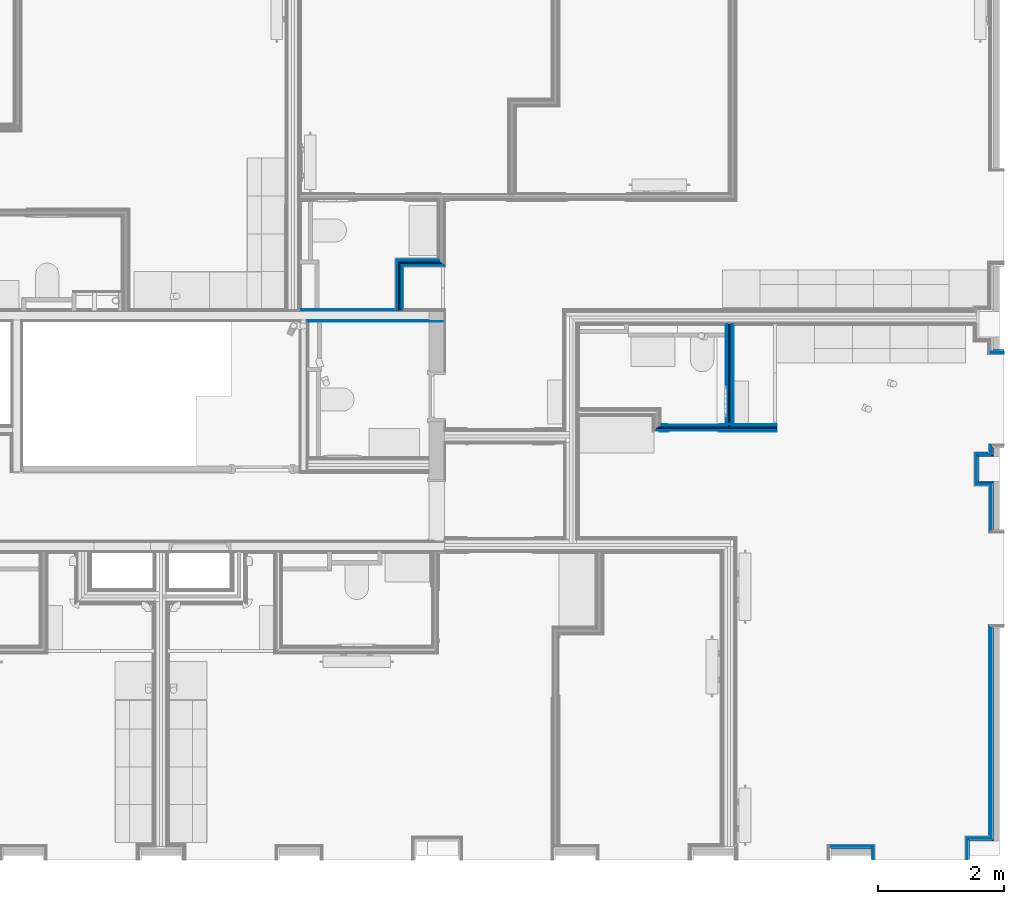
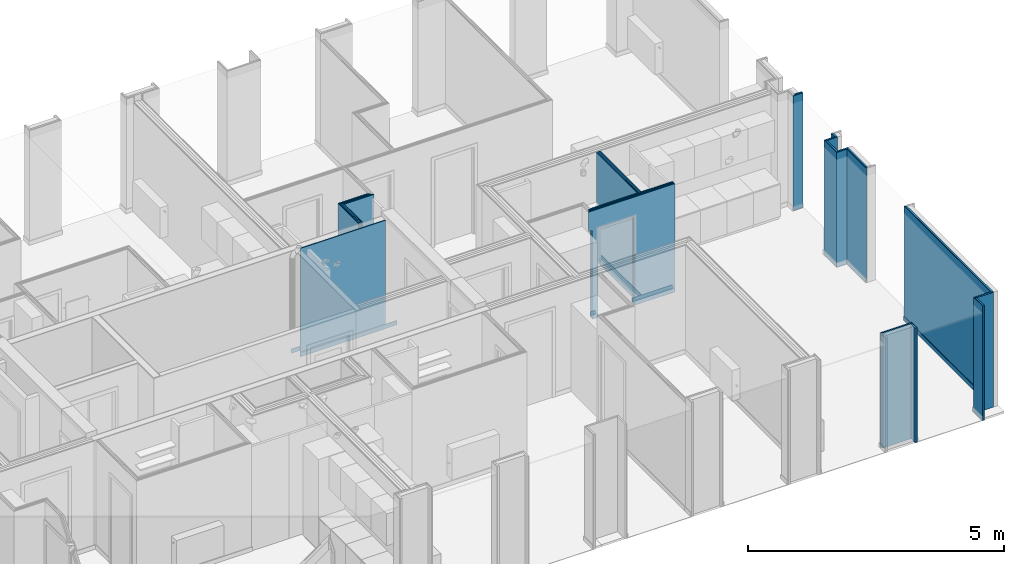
# One storey, part 22 of 82: 53 building element parts, 2 openings, 16 elements without a shape of their own.
"""IFC2X3 building model written with IfcOpenShell, lengths in metres."""

from ifc_helpers import new_model, entity, si_unit, converted_unit, derived_unit, money_unit, direction, frame, frame_2d, origin_with_axes, place, context, subcontext, project, spatial, polyline, rectangle, outline, extrude, material, type_object, element, aggregate, save


model = new_model("IFC2X3")

# Units and contexts
model_context = context("Model", 3, precision=1e-05, world=origin_with_axes(), true_north=direction((0.0, 1.0)))
body_context = subcontext(model_context, "Body", "Model", "MODEL_VIEW", scale=1.0)
ifc_project = project(units=[si_unit("LENGTHUNIT", "METRE"), si_unit("AREAUNIT", "SQUARE_METRE"), si_unit("VOLUMEUNIT", "CUBIC_METRE"), si_unit("ABSORBEDDOSEUNIT", "GRAY"), si_unit("AMOUNTOFSUBSTANCEUNIT", "MOLE"), si_unit("DOSEEQUIVALENTUNIT", "SIEVERT"), si_unit("ELECTRICCAPACITANCEUNIT", "FARAD"), si_unit("ELECTRICCHARGEUNIT", "COULOMB"), si_unit("ELECTRICCONDUCTANCEUNIT", "SIEMENS"), si_unit("ELECTRICCURRENTUNIT", "AMPERE"), si_unit("ELECTRICRESISTANCEUNIT", "OHM"), si_unit("ELECTRICVOLTAGEUNIT", "VOLT"), si_unit("ENERGYUNIT", "JOULE"), si_unit("FORCEUNIT", "NEWTON"), si_unit("FREQUENCYUNIT", "HERTZ"), si_unit("ILLUMINANCEUNIT", "LUX"), si_unit("INDUCTANCEUNIT", "HENRY"), si_unit("LUMINOUSFLUXUNIT", "LUMEN"), si_unit("LUMINOUSINTENSITYUNIT", "CANDELA"), si_unit("MAGNETICFLUXDENSITYUNIT", "TESLA"), si_unit("MAGNETICFLUXUNIT", "WEBER"), si_unit("MASSUNIT", "GRAM"), converted_unit("PLANEANGLEUNIT", "degree", entity("IfcReal", 0.0174532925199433), si_unit("PLANEANGLEUNIT", "RADIAN"), dimensions=[0, 0, 0, 0, 0, 0, 0]), si_unit("POWERUNIT", "WATT"), si_unit("PRESSUREUNIT", "PASCAL"), si_unit("RADIOACTIVITYUNIT", "BECQUEREL"), si_unit("SOLIDANGLEUNIT", "STERADIAN"), si_unit("THERMODYNAMICTEMPERATUREUNIT", "KELVIN"), si_unit("TIMEUNIT", "SECOND"), derived_unit("ACCELERATIONUNIT", [(si_unit("LENGTHUNIT", "METRE"), 1), (si_unit("TIMEUNIT", "SECOND"), -2)]), derived_unit("ANGULARVELOCITYUNIT", [(converted_unit("PLANEANGLEUNIT", "degree", entity("IfcReal", 0.0174532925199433), si_unit("PLANEANGLEUNIT", "RADIAN"), dimensions=[0, 0, 0, 0, 0, 0, 0]), 1), (si_unit("TIMEUNIT", "SECOND"), -1)]), derived_unit("CURVATUREUNIT", [(converted_unit("PLANEANGLEUNIT", "degree", entity("IfcReal", 0.0174532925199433), si_unit("PLANEANGLEUNIT", "RADIAN"), dimensions=[0, 0, 0, 0, 0, 0, 0]), 1), (si_unit("LENGTHUNIT", "METRE"), -1)]), derived_unit("DYNAMICVISCOSITYUNIT", [(si_unit("PRESSUREUNIT", "PASCAL"), 1), (si_unit("TIMEUNIT", "SECOND"), 1)]), derived_unit("HEATFLUXDENSITYUNIT", [(si_unit("POWERUNIT", "WATT"), 1), (si_unit("LENGTHUNIT", "METRE"), -2)]), derived_unit("HEATINGVALUEUNIT", [(si_unit("ENERGYUNIT", "JOULE"), 1), (si_unit("MASSUNIT", "GRAM"), -1)]), derived_unit("INTEGERCOUNTRATEUNIT", [(si_unit("TIMEUNIT", "SECOND"), -1)]), derived_unit("IONCONCENTRATIONUNIT", [(si_unit("MASSUNIT", "GRAM"), 1), (si_unit("VOLUMEUNIT", "CUBIC_METRE"), -1)]), derived_unit("ISOTHERMALMOISTURECAPACITYUNIT", [(si_unit("VOLUMEUNIT", "CUBIC_METRE"), 1), (si_unit("MASSUNIT", "GRAM"), -1)]), derived_unit("KINEMATICVISCOSITYUNIT", [(si_unit("AREAUNIT", "SQUARE_METRE"), 1), (si_unit("TIMEUNIT", "SECOND"), -1)]), derived_unit("LINEARFORCEUNIT", [(si_unit("FORCEUNIT", "NEWTON"), 1), (si_unit("LENGTHUNIT", "METRE"), -1)]), derived_unit("LINEARMOMENTUNIT", [(si_unit("FORCEUNIT", "NEWTON"), 1), (si_unit("LENGTHUNIT", "METRE"), -1)]), derived_unit("LINEARSTIFFNESSUNIT", [(si_unit("FORCEUNIT", "NEWTON"), 1), (si_unit("LENGTHUNIT", "METRE"), -1)]), derived_unit("LINEARVELOCITYUNIT", [(si_unit("LENGTHUNIT", "METRE"), 1), (si_unit("TIMEUNIT", "SECOND"), -1)]), derived_unit("LUMINOUSINTENSITYDISTRIBUTIONUNIT", [(si_unit("LUMINOUSINTENSITYUNIT", "CANDELA"), 1), (si_unit("LUMINOUSFLUXUNIT", "LUMEN"), -1)]), derived_unit("MASSDENSITYUNIT", [(si_unit("MASSUNIT", "GRAM"), 1), (si_unit("VOLUMEUNIT", "CUBIC_METRE"), -1)]), derived_unit("MASSFLOWRATEUNIT", [(si_unit("MASSUNIT", "GRAM"), 1), (si_unit("TIMEUNIT", "SECOND"), -1)]), derived_unit("MASSPERLENGTHUNIT", [(si_unit("MASSUNIT", "GRAM"), 1), (si_unit("LENGTHUNIT", "METRE"), -1)]), derived_unit("MODULUSOFELASTICITYUNIT", [(si_unit("FORCEUNIT", "NEWTON"), 1), (si_unit("AREAUNIT", "SQUARE_METRE"), -1)]), derived_unit("MODULUSOFLINEARSUBGRADEREACTIONUNIT", [(si_unit("FORCEUNIT", "NEWTON"), 1), (si_unit("LENGTHUNIT", "METRE"), -2)]), derived_unit("MODULUSOFROTATIONALSUBGRADEREACTIONUNIT", [(si_unit("FORCEUNIT", "NEWTON"), 1), (si_unit("LENGTHUNIT", "METRE"), 1)]), derived_unit("MODULUSOFSUBGRADEREACTIONUNIT", [(si_unit("FORCEUNIT", "NEWTON"), 1), (si_unit("VOLUMEUNIT", "CUBIC_METRE"), -1)]), derived_unit("MOISTUREDIFFUSIVITYUNIT", [(si_unit("VOLUMEUNIT", "CUBIC_METRE"), 1), (si_unit("TIMEUNIT", "SECOND"), -1)]), derived_unit("MOLECULARWEIGHTUNIT", [(si_unit("MASSUNIT", "GRAM"), 1), (si_unit("AMOUNTOFSUBSTANCEUNIT", "MOLE"), -1)]), derived_unit("PLANARFORCEUNIT", [(si_unit("FORCEUNIT", "NEWTON"), 1), (si_unit("LENGTHUNIT", "METRE"), -2)]), derived_unit("ROTATIONALFREQUENCYUNIT", [(si_unit("TIMEUNIT", "SECOND"), -1)]), derived_unit("ROTATIONALMASSUNIT", [(si_unit("MASSUNIT", "GRAM"), 1), (si_unit("LENGTHUNIT", "METRE"), 2)]), derived_unit("ROTATIONALSTIFFNESSUNIT", [(si_unit("FORCEUNIT", "NEWTON"), 1), (si_unit("LENGTHUNIT", "METRE"), 1), (converted_unit("PLANEANGLEUNIT", "degree", entity("IfcReal", 0.0174532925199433), si_unit("PLANEANGLEUNIT", "RADIAN"), dimensions=[0, 0, 0, 0, 0, 0, 0]), -1)]), derived_unit("SECTIONAREAINTEGRALUNIT", [(si_unit("LENGTHUNIT", "METRE"), 5)]), derived_unit("SECTIONMODULUSUNIT", [(si_unit("LENGTHUNIT", "METRE"), 3)]), derived_unit("SHEARMODULUSUNIT", [(si_unit("FORCEUNIT", "NEWTON"), 1), (si_unit("AREAUNIT", "SQUARE_METRE"), -1)]), derived_unit("SOUNDPOWERUNIT", [(si_unit("ENERGYUNIT", "JOULE"), 1), (si_unit("TIMEUNIT", "SECOND"), -1)]), derived_unit("SPECIFICHEATCAPACITYUNIT", [(si_unit("FORCEUNIT", "NEWTON"), 1), (si_unit("MASSUNIT", "GRAM"), -1), (si_unit("THERMODYNAMICTEMPERATUREUNIT", "KELVIN"), -1)]), derived_unit("TEMPERATUREGRADIENTUNIT", [(si_unit("THERMODYNAMICTEMPERATUREUNIT", "KELVIN"), 1), (si_unit("LENGTHUNIT", "METRE"), -1)]), derived_unit("THERMALADMITTANCEUNIT", [(si_unit("POWERUNIT", "WATT"), 1), (si_unit("AREAUNIT", "SQUARE_METRE"), -1), (si_unit("THERMODYNAMICTEMPERATUREUNIT", "KELVIN"), -1)]), derived_unit("THERMALCONDUCTANCEUNIT", [(si_unit("POWERUNIT", "WATT"), 1), (si_unit("LENGTHUNIT", "METRE"), -1), (si_unit("THERMODYNAMICTEMPERATUREUNIT", "KELVIN"), -1)]), derived_unit("THERMALEXPANSIONCOEFFICIENTUNIT", [(si_unit("THERMODYNAMICTEMPERATUREUNIT", "KELVIN"), -1)]), derived_unit("THERMALRESISTANCEUNIT", [(si_unit("AREAUNIT", "SQUARE_METRE"), 1), (si_unit("POWERUNIT", "WATT"), -1)]), derived_unit("THERMALTRANSMITTANCEUNIT", [(si_unit("POWERUNIT", "WATT"), 1), (si_unit("AREAUNIT", "SQUARE_METRE"), -1), (si_unit("THERMODYNAMICTEMPERATUREUNIT", "KELVIN"), -1)]), derived_unit("TORQUEUNIT", [(si_unit("FORCEUNIT", "NEWTON"), 1), (si_unit("LENGTHUNIT", "METRE"), 1)]), derived_unit("VAPORPERMEABILITYUNIT", [(si_unit("MASSUNIT", "GRAM"), 1), (si_unit("TIMEUNIT", "SECOND"), -1)]), derived_unit("VOLUMETRICFLOWRATEUNIT", [(si_unit("VOLUMEUNIT", "CUBIC_METRE"), 1), (si_unit("TIMEUNIT", "SECOND"), -1)]), derived_unit("WARPINGCONSTANTUNIT", [(si_unit("LENGTHUNIT", "METRE"), 6)]), derived_unit("WARPINGMOMENTUNIT", [(si_unit("FORCEUNIT", "NEWTON"), 1), (si_unit("LENGTHUNIT", "METRE"), 2)]), money_unit("GBP")], contexts=[model_context])

# Site, building, storey
site_placement = place(None, origin_with_axes())
site = spatial("IfcSite", under=ifc_project, at=site_placement, Name="Site", CompositionType="ELEMENT")
building_placement = place(site_placement, origin_with_axes())
building = spatial("IfcBuilding", under=site, at=building_placement, Name="Building01", CompositionType="ELEMENT")
storey_placement = place(building_placement, frame((0.0, 0.0, 12.13), z_axis=(0.0, 0.0, 1.0), x_axis=(1.0, 0.0, 0.0)))
storey = spatial("IfcBuildingStorey", under=building, at=storey_placement, Name="3F", CompositionType="ELEMENT", Elevation=12.13)

# Wall, building element parts
wall_type_1 = type_object("IfcWallType", Name="SHE_A-Walls_Type06d_ExternalWallInsulation_48mm", PredefinedType="NOTDEFINED")
wall_1_placement = place(storey_placement, frame((24.143, 0.27, 0.0), z_axis=(0.0, 0.0, 1.0), x_axis=(1.0, 0.0, 0.0)))
wall_1 = element("IfcWall", 1, at=wall_1_placement, inside=storey, type_object=wall_type_1, Name="6D", ObjectType="SHE_A-Walls_Type06d_ExternalWallInsulation_48mm")
ifc_material_1 = material(Name="A_BSUK_Insulation")
placement_1 = place(wall_1_placement, origin_with_axes())
building_element_part_1 = element("IfcBuildingElementPart", 2, at=placement_1, material=ifc_material_1, Name="1", context=body_context, shape_type="SweptSolid", body=[
    extrude(outline(polyline([(0.66, 0.036), (-0.036, 0.036), (0.0, 0.0), (0.624, 0.0), (0.66, 0.036)])), origin_with_axes(), (0.0, 0.0, 1.0), 2.74),
])
ifc_material_2 = material(Name="A_BSUK_WallInternal_Finishes_Plasterboard")
building_element_part_2 = element("IfcBuildingElementPart", 3, at=placement_1, material=ifc_material_2, Name="2", context=body_context, shape_type="SweptSolid", body=[
    extrude(outline(polyline([(0.672, 0.048), (-0.048, 0.048), (-0.035, 0.035), (0.659, 0.035), (0.672, 0.048)])), origin_with_axes(), (0.0, 0.0, 1.0), 2.74),
])
aggregate(wall_1, [building_element_part_1, building_element_part_2])

wall_2_placement = place(storey_placement, frame((24.767, 0.27, 0.0), z_axis=(0.0, 0.0, 1.0), x_axis=(0.0, -1.0, 0.0)))
wall_2 = element("IfcWall", 4, at=wall_2_placement, inside=storey, type_object=wall_type_1, Name="6D", ObjectType="SHE_A-Walls_Type06d_ExternalWallInsulation_48mm")
placement_2 = place(wall_2_placement, origin_with_axes())
building_element_part_3 = element("IfcBuildingElementPart", 5, at=placement_2, material=ifc_material_1, Name="1", context=body_context, shape_type="SweptSolid", body=[
    extrude(outline(polyline([(-0.036, 0.036), (0.0, 0.0), (0.17, 0.0), (0.17, 0.036), (-0.036, 0.036)])), origin_with_axes(), (0.0, 0.0, 1.0), 2.74),
])
building_element_part_4 = element("IfcBuildingElementPart", 6, at=placement_2, material=ifc_material_2, Name="2", context=body_context, shape_type="SweptSolid", body=[
    extrude(outline(polyline([(-0.048, 0.048), (-0.035, 0.035), (0.17, 0.035), (0.17, 0.048), (-0.048, 0.048)])), origin_with_axes(), (0.0, 0.0, 1.0), 2.74),
])
aggregate(wall_2, [building_element_part_3, building_element_part_4])

wall_3_placement = place(storey_placement, frame((26.333, 0.1, 0.0), z_axis=(0.0, 0.0, 1.0), x_axis=(0.0, 1.0, 0.0)))
wall_3 = element("IfcWall", 7, at=wall_3_placement, inside=storey, type_object=wall_type_1, Name="6D", ObjectType="SHE_A-Walls_Type06d_ExternalWallInsulation_48mm")
placement_3 = place(wall_3_placement, origin_with_axes())
building_element_part_5 = element("IfcBuildingElementPart", 8, at=placement_3, material=ifc_material_1, Name="1", context=body_context, shape_type="SweptSolid", body=[
    extrude(outline(polyline([(0.336, 0.036), (0.0, 0.036), (0.0, 0.0), (0.3, 0.0), (0.336, 0.036)])), origin_with_axes(), (0.0, 0.0, 1.0), 2.74),
])
building_element_part_6 = element("IfcBuildingElementPart", 9, at=placement_3, material=ifc_material_2, Name="2", context=body_context, shape_type="SweptSolid", body=[
    extrude(outline(polyline([(0.348, 0.048), (0.0, 0.048), (0.0, 0.035), (0.335, 0.035), (0.348, 0.048)])), origin_with_axes(), (0.0, 0.0, 1.0), 2.74),
])
aggregate(wall_3, [building_element_part_5, building_element_part_6])

wall_4_placement = place(storey_placement, frame((26.333, 0.4, 0.0), z_axis=(0.0, 0.0, 1.0), x_axis=(1.0, 0.0, 0.0)))
wall_4 = element("IfcWall", 10, at=wall_4_placement, inside=storey, type_object=wall_type_1, Name="6D", ObjectType="SHE_A-Walls_Type06d_ExternalWallInsulation_48mm")
placement_4 = place(wall_4_placement, origin_with_axes())
building_element_part_7 = element("IfcBuildingElementPart", 11, at=placement_4, material=ifc_material_1, Name="1", context=body_context, shape_type="SweptSolid", body=[
    extrude(outline(polyline([(0.341, 0.036), (-0.036, 0.036), (0.0, 0.0), (0.377, 0.0), (0.341, 0.036)])), origin_with_axes(), (0.0, 0.0, 1.0), 2.74),
])
building_element_part_8 = element("IfcBuildingElementPart", 12, at=placement_4, material=ifc_material_2, Name="2", context=body_context, shape_type="SweptSolid", body=[
    extrude(outline(polyline([(0.329, 0.048), (-0.048, 0.048), (-0.035, 0.035), (0.342, 0.035), (0.329, 0.048)])), origin_with_axes(), (0.0, 0.0, 1.0), 2.74),
])
aggregate(wall_4, [building_element_part_7, building_element_part_8])

wall_5_placement = place(storey_placement, frame((26.71, 0.4, 0.0), z_axis=(0.0, 0.0, 1.0), x_axis=(0.0, 1.0, 0.0)))
wall_5 = element("IfcWall", 13, at=wall_5_placement, inside=storey, type_object=wall_type_1, Name="6D", ObjectType="SHE_A-Walls_Type06d_ExternalWallInsulation_48mm")
placement_5 = place(wall_5_placement, origin_with_axes())
building_element_part_9 = element("IfcBuildingElementPart", 14, at=placement_5, material=ifc_material_1, Name="1", context=body_context, shape_type="SweptSolid", body=[
    extrude(outline(polyline([(3.41018, 0.036), (0.036, 0.036), (0.0, 0.0), (3.37418, 0.0), (3.41018, 0.036)])), origin_with_axes(), (0.0, 0.0, 1.0), 2.74),
])
building_element_part_10 = element("IfcBuildingElementPart", 15, at=placement_5, material=ifc_material_2, Name="2", context=body_context, shape_type="SweptSolid", body=[
    extrude(outline(polyline([(3.42218, 0.048), (0.048, 0.048), (0.035, 0.035), (3.40918, 0.035), (3.42218, 0.048)])), origin_with_axes(), (0.0, 0.0, 1.0), 2.74),
])
ifc_material_3 = material(Name="A_BSUK_Walls_Timber")
building_element_part_11 = element("IfcBuildingElementPart", 16, at=placement_5, material=ifc_material_3, Name="3", context=body_context, shape_type="SweptSolid", body=[
    extrude(outline(polyline([(0.063, 0.063), (0.048, 0.048), (3.42218, 0.048), (3.42218, 0.063), (0.063, 0.063)])), frame((0.0, 0.0, 0.015), z_axis=(0.0, 0.0, 1.0), x_axis=(1.0, 0.0, 0.0)), (0.0, 0.0, 1.0), 0.1),
])
aggregate(wall_5, [building_element_part_9, building_element_part_10, building_element_part_11])

wall_6_placement = place(storey_placement, frame((26.71, 5.34018, 0.0), z_axis=(0.0, 0.0, 1.0), x_axis=(0.0, 1.0, 0.0)))
wall_6 = element("IfcWall", 17, at=wall_6_placement, inside=storey, type_object=wall_type_1, Name="6D", ObjectType="SHE_A-Walls_Type06d_ExternalWallInsulation_48mm")
placement_6 = place(wall_6_placement, origin_with_axes())
building_element_part_12 = element("IfcBuildingElementPart", 18, at=placement_6, material=ifc_material_1, Name="1", context=body_context, shape_type="SweptSolid", body=[
    extrude(outline(polyline([(0.72382, 0.036), (-0.036, 0.036), (0.0, 0.0), (0.75982, 0.0), (0.72382, 0.036)])), origin_with_axes(), (0.0, 0.0, 1.0), 2.74),
])
building_element_part_13 = element("IfcBuildingElementPart", 19, at=placement_6, material=ifc_material_2, Name="2", context=body_context, shape_type="SweptSolid", body=[
    extrude(outline(polyline([(0.71182, 0.048), (-0.048, 0.048), (-0.035, 0.035), (0.72482, 0.035), (0.71182, 0.048)])), origin_with_axes(), (0.0, 0.0, 1.0), 2.74),
])
aggregate(wall_6, [building_element_part_12, building_element_part_13])

wall_7_placement = place(storey_placement, frame((26.71, 6.1, 0.0), z_axis=(0.0, 0.0, 1.0), x_axis=(-1.0, 0.0, 0.0)))
wall_7 = element("IfcWall", 20, at=wall_7_placement, inside=storey, type_object=wall_type_1, Name="6D", ObjectType="SHE_A-Walls_Type06d_ExternalWallInsulation_48mm")
placement_7 = place(wall_7_placement, origin_with_axes())
building_element_part_14 = element("IfcBuildingElementPart", 21, at=placement_7, material=ifc_material_1, Name="1", context=body_context, shape_type="SweptSolid", body=[
    extrude(outline(polyline([(0.266, 0.036), (0.036, 0.036), (0.0, 0.0), (0.23, 0.0), (0.266, 0.036)])), origin_with_axes(), (0.0, 0.0, 1.0), 2.74),
])
building_element_part_15 = element("IfcBuildingElementPart", 22, at=placement_7, material=ifc_material_2, Name="2", context=body_context, shape_type="SweptSolid", body=[
    extrude(outline(polyline([(0.278, 0.048), (0.048, 0.048), (0.035, 0.035), (0.265, 0.035), (0.278, 0.048)])), origin_with_axes(), (0.0, 0.0, 1.0), 2.74),
])
aggregate(wall_7, [building_element_part_14, building_element_part_15])

wall_8_placement = place(storey_placement, frame((26.48, 6.1, 0.0), z_axis=(0.0, 0.0, 1.0), x_axis=(0.0, 1.0, 0.0)))
wall_8 = element("IfcWall", 23, at=wall_8_placement, inside=storey, type_object=wall_type_1, Name="6D", ObjectType="SHE_A-Walls_Type06d_ExternalWallInsulation_48mm")
placement_8 = place(wall_8_placement, origin_with_axes())
building_element_part_16 = element("IfcBuildingElementPart", 24, at=placement_8, material=ifc_material_1, Name="1", context=body_context, shape_type="SweptSolid", body=[
    extrude(outline(polyline([(0.436, 0.036), (-0.036, 0.036), (0.0, 0.0), (0.4, 0.0), (0.436, 0.036)])), origin_with_axes(), (0.0, 0.0, 1.0), 2.74),
])
building_element_part_17 = element("IfcBuildingElementPart", 25, at=placement_8, material=ifc_material_2, Name="2", context=body_context, shape_type="SweptSolid", body=[
    extrude(outline(polyline([(0.448, 0.048), (-0.048, 0.048), (-0.035, 0.035), (0.435, 0.035), (0.448, 0.048)])), origin_with_axes(), (0.0, 0.0, 1.0), 2.74),
])
aggregate(wall_8, [building_element_part_16, building_element_part_17])

wall_9_placement = place(storey_placement, frame((26.48, 6.5, 0.0), z_axis=(0.0, 0.0, 1.0), x_axis=(1.0, 0.0, 0.0)))
wall_9 = element("IfcWall", 26, at=wall_9_placement, inside=storey, type_object=wall_type_1, Name="6D", ObjectType="SHE_A-Walls_Type06d_ExternalWallInsulation_48mm")
placement_9 = place(wall_9_placement, origin_with_axes())
building_element_part_18 = element("IfcBuildingElementPart", 27, at=placement_9, material=ifc_material_1, Name="1", context=body_context, shape_type="SweptSolid", body=[
    extrude(outline(polyline([(0.194, 0.036), (-0.036, 0.036), (0.0, 0.0), (0.23, 0.0), (0.194, 0.036)])), origin_with_axes(), (0.0, 0.0, 1.0), 2.74),
])
building_element_part_19 = element("IfcBuildingElementPart", 28, at=placement_9, material=ifc_material_2, Name="2", context=body_context, shape_type="SweptSolid", body=[
    extrude(outline(polyline([(0.182, 0.048), (-0.048, 0.048), (-0.035, 0.035), (0.195, 0.035), (0.182, 0.048)])), origin_with_axes(), (0.0, 0.0, 1.0), 2.74),
])
aggregate(wall_9, [building_element_part_18, building_element_part_19])

wall_10_placement = place(storey_placement, frame((26.71, 6.5, 0.0), z_axis=(0.0, 0.0, 1.0), x_axis=(0.0, 1.0, 0.0)))
wall_10 = element("IfcWall", 29, at=wall_10_placement, inside=storey, type_object=wall_type_1, Name="6D", ObjectType="SHE_A-Walls_Type06d_ExternalWallInsulation_48mm")
placement_10 = place(wall_10_placement, origin_with_axes())
building_element_part_20 = element("IfcBuildingElementPart", 30, at=placement_10, material=ifc_material_1, Name="1", context=body_context, shape_type="SweptSolid", body=[
    extrude(outline(polyline([(0.170326, 0.036), (0.036, 0.036), (0.0, 0.0), (0.134326, 0.0), (0.170326, 0.036)])), origin_with_axes(), (0.0, 0.0, 1.0), 2.74),
])
building_element_part_21 = element("IfcBuildingElementPart", 31, at=placement_10, material=ifc_material_2, Name="2", context=body_context, shape_type="SweptSolid", body=[
    extrude(outline(polyline([(0.182326, 0.048), (0.048, 0.048), (0.035, 0.035), (0.169326, 0.035), (0.182326, 0.048)])), origin_with_axes(), (0.0, 0.0, 1.0), 2.74),
])
aggregate(wall_10, [building_element_part_20, building_element_part_21])

wall_type_2 = type_object("IfcWallType", Name="SHE_A-Walls_Type05a_Partition_95mm_tall", PredefinedType="NOTDEFINED")
wall_11_placement = place(storey_placement, frame((17.273132, 8.82, 0.0), z_axis=(0.0, 0.0, 1.0), x_axis=(0.0, 1.0, 0.0)))
wall_11 = element("IfcWall", 32, at=wall_11_placement, inside=storey, type_object=wall_type_2, Name="5A", ObjectType="SHE_A-Walls_Type05a_Partition_95mm_tall")
placement_11 = place(wall_11_placement, origin_with_axes())
building_element_part_22 = element("IfcBuildingElementPart", 33, at=placement_11, material=ifc_material_2, Name="2", context=body_context, shape_type="SweptSolid", body=[
    extrude(outline(polyline([(0.717, -0.048), (0.0, -0.048), (0.0, -0.06), (0.705, -0.06), (0.717, -0.048)])), origin_with_axes(), (0.0, 0.0, 1.0), 2.59),
])
ifc_material_4 = material(Name="Air Cavity")
building_element_part_23 = element("IfcBuildingElementPart", 34, at=placement_11, material=ifc_material_4, Name="3", context=body_context, shape_type="SweptSolid", body=[
    extrude(outline(polyline([(0.74, -0.025), (0.0, -0.025), (0.0, -0.048), (0.717, -0.048), (0.74, -0.025)])), origin_with_axes(), (0.0, 0.0, 1.0), 2.59),
])
building_element_part_24 = element("IfcBuildingElementPart", 35, at=placement_11, material=ifc_material_1, Name="4", context=body_context, shape_type="SweptSolid", body=[
    extrude(outline(polyline([(0.765, 0.0), (0.0, 0.0), (0.0, -0.025), (0.74, -0.025), (0.765, 0.0)])), origin_with_axes(), (0.0, 0.0, 1.0), 2.59),
])
building_element_part_25 = element("IfcBuildingElementPart", 36, at=placement_11, material=ifc_material_4, Name="5", context=body_context, shape_type="SweptSolid", body=[
    extrude(outline(polyline([(0.788, 0.023), (0.0, 0.023), (0.0, 0.0), (0.765, 0.0), (0.788, 0.023)])), origin_with_axes(), (0.0, 0.0, 1.0), 2.59),
])
building_element_part_26 = element("IfcBuildingElementPart", 37, at=placement_11, material=ifc_material_2, Name="6", context=body_context, shape_type="SweptSolid", body=[
    extrude(outline(polyline([(0.8, 0.035), (0.0, 0.035), (0.0, 0.023), (0.788, 0.023), (0.8, 0.035)])), origin_with_axes(), (0.0, 0.0, 1.0), 2.59),
])
aggregate(wall_11, [building_element_part_22, building_element_part_23, building_element_part_24, building_element_part_25, building_element_part_26])

wall_12_placement = place(storey_placement, frame((17.273132, 9.585, 0.0), z_axis=(0.0, 0.0, 1.0), x_axis=(1.0, 0.0, 0.0)))
wall_12 = element("IfcWall", 38, at=wall_12_placement, inside=storey, type_object=wall_type_2, Name="5A", ObjectType="SHE_A-Walls_Type05a_Partition_95mm_tall")
placement_12 = place(wall_12_placement, origin_with_axes())
building_element_part_27 = element("IfcBuildingElementPart", 39, at=placement_12, material=ifc_material_2, Name="2", context=body_context, shape_type="SweptSolid", body=[
    extrude(outline(polyline([(0.714868, -0.048), (0.048, -0.048), (0.06, -0.06), (0.726868, -0.06), (0.714868, -0.048)])), origin_with_axes(), (0.0, 0.0, 1.0), 2.59),
])
building_element_part_28 = element("IfcBuildingElementPart", 40, at=placement_12, material=ifc_material_4, Name="3", context=body_context, shape_type="SweptSolid", body=[
    extrude(outline(polyline([(0.691868, -0.025), (0.025, -0.025), (0.048, -0.048), (0.714868, -0.048), (0.691868, -0.025)])), origin_with_axes(), (0.0, 0.0, 1.0), 2.59),
])
building_element_part_29 = element("IfcBuildingElementPart", 41, at=placement_12, material=ifc_material_1, Name="4", context=body_context, shape_type="SweptSolid", body=[
    extrude(outline(polyline([(0.666868, 0.0), (0.0, 0.0), (0.025, -0.025), (0.691868, -0.025), (0.666868, 0.0)])), origin_with_axes(), (0.0, 0.0, 1.0), 2.59),
])
building_element_part_30 = element("IfcBuildingElementPart", 42, at=placement_12, material=ifc_material_4, Name="5", context=body_context, shape_type="SweptSolid", body=[
    extrude(outline(polyline([(0.643868, 0.023), (-0.023, 0.023), (0.0, 0.0), (0.666868, 0.0), (0.643868, 0.023)])), origin_with_axes(), (0.0, 0.0, 1.0), 2.59),
])
building_element_part_31 = element("IfcBuildingElementPart", 43, at=placement_12, material=ifc_material_2, Name="6", context=body_context, shape_type="SweptSolid", body=[
    extrude(outline(polyline([(0.631868, 0.035), (-0.035, 0.035), (-0.023, 0.023), (0.643868, 0.023), (0.631868, 0.035)])), origin_with_axes(), (0.0, 0.0, 1.0), 2.59),
])
aggregate(wall_12, [building_element_part_27, building_element_part_28, building_element_part_29, building_element_part_30, building_element_part_31])

wall_type_3 = type_object("IfcWallType", Name="SHE_A-Walls_Type03a_BlockworkWall_170mm", PredefinedType="NOTDEFINED")
wall_13_placement = place(storey_placement, frame((17.75, 8.805, 0.0), z_axis=(0.0, 0.0, 1.0), x_axis=(-1.0, 0.0, 0.0)))
wall_13 = element("IfcWall", 44, at=wall_13_placement, inside=storey, type_object=wall_type_3, Name="4B", ObjectType="SHE_A-Walls_Type03a_BlockworkWall_170mm")
placement_13 = place(wall_13_placement, origin_with_axes())
building_element_part_32 = element("IfcBuildingElementPart", 45, at=placement_13, material=ifc_material_3, Name="6", context=body_context, shape_type="SweptSolid", body=[
    extrude(rectangle(XDim=1.515, YDim=0.015, at=frame_2d((1.269368, -0.0225), x_axis=(-1.0, 0.0))), frame((0.0, 0.0, 0.015), z_axis=(0.0, 0.0, 1.0), x_axis=(1.0, 0.0, 0.0)), (0.0, 0.0, 1.0), 0.1),
])
ifc_material_5 = material(Name="A_BSUK_WallInternal_Finishes_Plaster")
building_element_part_33 = element("IfcBuildingElementPart", 46, at=placement_13, material=ifc_material_5, Name="9", context=body_context, shape_type="SweptSolid", body=[
    extrude(rectangle(XDim=1.92, YDim=0.015, at=frame_2d((0.96, 0.1475), x_axis=(-1.0, 0.0))), origin_with_axes(), (0.0, 0.0, 1.0), 2.59),
])
building_element_part_34 = element("IfcBuildingElementPart", 47, at=placement_13, material=ifc_material_3, Name="12", context=body_context, shape_type="SweptSolid", body=[
    extrude(rectangle(XDim=2.17, YDim=0.015, at=frame_2d((0.835, 0.1625), x_axis=(-1.0, 0.0))), frame((0.0, 0.0, 0.015), z_axis=(0.0, 0.0, 1.0), x_axis=(1.0, 0.0, 0.0)), (0.0, 0.0, 1.0), 0.1),
])
aggregate(wall_13, [building_element_part_32, building_element_part_33, building_element_part_34])

# Wall, openings, building element parts
wall_14_placement = place(storey_placement, frame((21.357661, 6.94, 0.0), z_axis=(0.0, 0.0, 1.0), x_axis=(1.0, 0.0, 0.0)))
wall_14 = element("IfcWall", 48, at=wall_14_placement, inside=storey, type_object=wall_type_2, Name="5A", ObjectType="SHE_A-Walls_Type05a_Partition_95mm_tall")
opening_1_placement = place(wall_14_placement, frame((-0.773, -0.05, -0.015), z_axis=(0.0, 0.0, 1.0), x_axis=(1.0, 0.0, 0.0)))
element("IfcOpeningElement", 49, at=opening_1_placement, cuts=wall_14, Name="Opening", ObjectType="Opening", context=body_context, shape_type="SweptSolid", body=[
    extrude(rectangle(XDim=0.834, YDim=2.142, at=frame_2d((-0.417, 1.071), x_axis=(1.0, 0.0))), frame((0.0, 0.0, 0.0), z_axis=(0.0, 1.0, 0.0), x_axis=(-1.0, 0.0, 0.0)), (0.0, 0.0, 1.0), 0.125),
])
opening_2_placement = place(wall_14_placement, frame((0.177, -0.05, 0.0), z_axis=(0.0, 0.0, 1.0), x_axis=(1.0, 0.0, 0.0)))
element("IfcOpeningElement", 50, at=opening_2_placement, cuts=wall_14, Name="Opening", ObjectType="Opening", context=body_context, shape_type="SweptSolid", body=[
    extrude(rectangle(XDim=2.142, YDim=0.834, at=frame_2d((-0.417, 1.071), x_axis=(0.0, -1.0))), frame((0.0, 0.0, 0.0), z_axis=(0.0, 1.0, 0.0), x_axis=(-1.0, 0.0, 0.0)), (0.0, 0.0, 1.0), 0.125),
])
placement_14 = place(wall_14_placement, origin_with_axes())
building_element_part_35 = element("IfcBuildingElementPart", 51, at=placement_14, material=ifc_material_3, Name="1", context=body_context, shape_type="SweptSolid", body=[
    extrude(outline(polyline([(1.913868, -0.035), (-0.035, -0.035), (-0.05, -0.05), (1.913868, -0.05), (1.913868, -0.035)])), frame((0.0, 0.0, 0.015), z_axis=(0.0, 0.0, 1.0), x_axis=(1.0, 0.0, 0.0)), (0.0, 0.0, 1.0), 0.1),
])
building_element_part_36 = element("IfcBuildingElementPart", 52, at=placement_14, material=ifc_material_2, Name="2", context=body_context, shape_type="SweptSolid", body=[
    extrude(outline(polyline([(1.913868, -0.023), (-0.023, -0.023), (-0.035, -0.035), (1.913868, -0.035), (1.913868, -0.023)])), origin_with_axes(), (0.0, 0.0, 1.0), 2.59),
])
building_element_part_37 = element("IfcBuildingElementPart", 53, at=placement_14, material=ifc_material_4, Name="3", context=body_context, shape_type="SweptSolid", body=[
    extrude(outline(polyline([(1.913868, 0.0), (0.0, 0.0), (-0.023, -0.023), (1.913868, -0.023), (1.913868, 0.0)])), origin_with_axes(), (0.0, 0.0, 1.0), 2.59),
])
building_element_part_38 = element("IfcBuildingElementPart", 54, at=placement_14, material=ifc_material_1, Name="4", context=body_context, shape_type="SweptSolid", body=[
    extrude(rectangle(XDim=1.913868, YDim=0.025, at=frame_2d((0.956934, 0.0125), x_axis=(-1.0, 0.0))), origin_with_axes(), (0.0, 0.0, 1.0), 2.59),
])
building_element_part_39 = element("IfcBuildingElementPart", 55, at=placement_14, material=ifc_material_4, Name="5", context=body_context, shape_type="SweptSolid", body=[
    extrude(rectangle(XDim=1.913868, YDim=0.023, at=frame_2d((0.956934, 0.0365), x_axis=(-1.0, 0.0))), origin_with_axes(), (0.0, 0.0, 1.0), 2.59),
])
building_element_part_40 = element("IfcBuildingElementPart", 56, at=placement_14, material=ifc_material_2, Name="6", context=body_context, shape_type="SweptSolid", body=[
    extrude(outline(polyline([(1.131, 0.06), (0.06, 0.06), (0.048, 0.048), (1.131, 0.048), (1.131, 0.06)])), origin_with_axes(), (0.0, 0.0, 1.0), 2.59),
])
building_element_part_41 = element("IfcBuildingElementPart", 57, at=placement_14, material=ifc_material_2, Name="7", context=body_context, shape_type="SweptSolid", body=[
    extrude(rectangle(XDim=0.711868, YDim=0.012, at=frame_2d((1.557934, 0.054), x_axis=(-1.0, 0.0))), origin_with_axes(), (0.0, 0.0, 1.0), 2.59),
])
building_element_part_42 = element("IfcBuildingElementPart", 58, at=placement_14, material=ifc_material_3, Name="8", context=body_context, shape_type="SweptSolid", body=[
    extrude(outline(polyline([(1.119, 0.075), (0.075, 0.075), (0.06, 0.06), (1.119, 0.06), (1.119, 0.075)])), frame((0.0, 0.0, 0.015), z_axis=(0.0, 0.0, 1.0), x_axis=(1.0, 0.0, 0.0)), (0.0, 0.0, 1.0), 0.1),
])
building_element_part_43 = element("IfcBuildingElementPart", 59, at=placement_14, material=ifc_material_3, Name="9", context=body_context, shape_type="SweptSolid", body=[
    extrude(outline(polyline([(1.913868, 0.075), (0.075, 0.075), (0.06, 0.06), (1.913868, 0.06), (1.913868, 0.075)])), frame((0.0, 0.0, 0.015), z_axis=(0.0, 0.0, 1.0), x_axis=(1.0, 0.0, 0.0)), (0.0, 0.0, 1.0), 0.1),
])
aggregate(wall_14, [building_element_part_35, building_element_part_36, building_element_part_37, building_element_part_38, building_element_part_39, building_element_part_40, building_element_part_41, building_element_part_42, building_element_part_43])

# Wall, building element parts
wall_15_placement = place(storey_placement, frame((22.536661, 6.965, 0.0), z_axis=(0.0, 0.0, 1.0), x_axis=(0.0, 1.0, 0.0)))
wall_15 = element("IfcWall", 60, at=wall_15_placement, inside=storey, type_object=wall_type_2, Name="5A", ObjectType="SHE_A-Walls_Type05a_Partition_95mm_tall")
placement_15 = place(wall_15_placement, origin_with_axes())
building_element_part_44 = element("IfcBuildingElementPart", 61, at=placement_15, material=ifc_material_3, Name="1", context=body_context, shape_type="SweptSolid", body=[
    extrude(rectangle(XDim=1.565, YDim=0.015, at=frame_2d((0.8325, -0.0425), x_axis=(-1.0, 0.0))), frame((0.0, 0.0, 0.015), z_axis=(0.0, 0.0, 1.0), x_axis=(1.0, 0.0, 0.0)), (0.0, 0.0, 1.0), 0.1),
])
building_element_part_45 = element("IfcBuildingElementPart", 62, at=placement_15, material=ifc_material_2, Name="2", context=body_context, shape_type="SweptSolid", body=[
    extrude(rectangle(XDim=1.595, YDim=0.012, at=frame_2d((0.8325, -0.029), x_axis=(-1.0, 0.0))), origin_with_axes(), (0.0, 0.0, 1.0), 2.59),
])
building_element_part_46 = element("IfcBuildingElementPart", 63, at=placement_15, material=ifc_material_4, Name="3", context=body_context, shape_type="SweptSolid", body=[
    extrude(rectangle(XDim=1.595, YDim=0.023, at=frame_2d((0.8325, -0.0115), x_axis=(-1.0, 0.0))), origin_with_axes(), (0.0, 0.0, 1.0), 2.59),
])
building_element_part_47 = element("IfcBuildingElementPart", 64, at=placement_15, material=ifc_material_1, Name="4", context=body_context, shape_type="SweptSolid", body=[
    extrude(rectangle(XDim=1.63, YDim=0.025, at=frame_2d((0.815, 0.0125), x_axis=(-1.0, 0.0))), origin_with_axes(), (0.0, 0.0, 1.0), 2.59),
])
building_element_part_48 = element("IfcBuildingElementPart", 65, at=placement_15, material=ifc_material_4, Name="5", context=body_context, shape_type="SweptSolid", body=[
    extrude(rectangle(XDim=1.63, YDim=0.023, at=frame_2d((0.815, 0.0365), x_axis=(-1.0, 0.0))), origin_with_axes(), (0.0, 0.0, 1.0), 2.59),
])
building_element_part_49 = element("IfcBuildingElementPart", 66, at=placement_15, material=ifc_material_2, Name="6", context=body_context, shape_type="SweptSolid", body=[
    extrude(rectangle(XDim=1.595, YDim=0.012, at=frame_2d((0.8325, 0.054), x_axis=(-1.0, 0.0))), origin_with_axes(), (0.0, 0.0, 1.0), 2.59),
])
building_element_part_50 = element("IfcBuildingElementPart", 67, at=placement_15, material=ifc_material_3, Name="7", context=body_context, shape_type="SweptSolid", body=[
    extrude(rectangle(XDim=1.565, YDim=0.015, at=frame_2d((0.8325, 0.0675), x_axis=(-1.0, 0.0))), frame((0.0, 0.0, 0.015), z_axis=(0.0, 0.0, 1.0), x_axis=(1.0, 0.0, 0.0)), (0.0, 0.0, 1.0), 0.1),
])
aggregate(wall_15, [building_element_part_44, building_element_part_45, building_element_part_46, building_element_part_47, building_element_part_48, building_element_part_49, building_element_part_50])

wall_type_4 = type_object("IfcWallType", Name="SHE_A-Walls_Type06f_ExternalWallInsulation_48+15mm", PredefinedType="NOTDEFINED")
wall_16_placement = place(storey_placement, frame((26.879178, 8.200326, 0.0), z_axis=(0.0, 0.0, 1.0), x_axis=(-1.0, 0.0, 0.0)))
wall_16 = element("IfcWall", 68, at=wall_16_placement, inside=storey, type_object=wall_type_4, Name="6F", ObjectType="SHE_A-Walls_Type06f_ExternalWallInsulation_48+15mm")
placement_16 = place(wall_16_placement, origin_with_axes())
building_element_part_51 = element("IfcBuildingElementPart", 69, at=placement_16, material=ifc_material_1, Name="1", context=body_context, shape_type="SweptSolid", body=[
    extrude(rectangle(XDim=0.17, YDim=0.036, at=frame_2d((0.085, 0.018), x_axis=(-1.0, 0.0))), origin_with_axes(), (0.0, 0.0, 1.0), 2.74),
])
building_element_part_52 = element("IfcBuildingElementPart", 70, at=placement_16, material=ifc_material_2, Name="2", context=body_context, shape_type="SweptSolid", body=[
    extrude(rectangle(XDim=0.206, YDim=0.012, at=frame_2d((0.103, 0.042), x_axis=(-1.0, 0.0))), origin_with_axes(), (0.0, 0.0, 1.0), 2.74),
])
building_element_part_53 = element("IfcBuildingElementPart", 71, at=placement_16, material=ifc_material_2, Name="3", context=body_context, shape_type="SweptSolid", body=[
    extrude(outline(polyline([(0.233, 0.063), (0.0, 0.063), (0.0, 0.048), (0.218, 0.048), (0.233, 0.063)])), origin_with_axes(), (0.0, 0.0, 1.0), 2.74),
])
aggregate(wall_16, [building_element_part_51, building_element_part_52, building_element_part_53])

save(model, "model.ifc")
